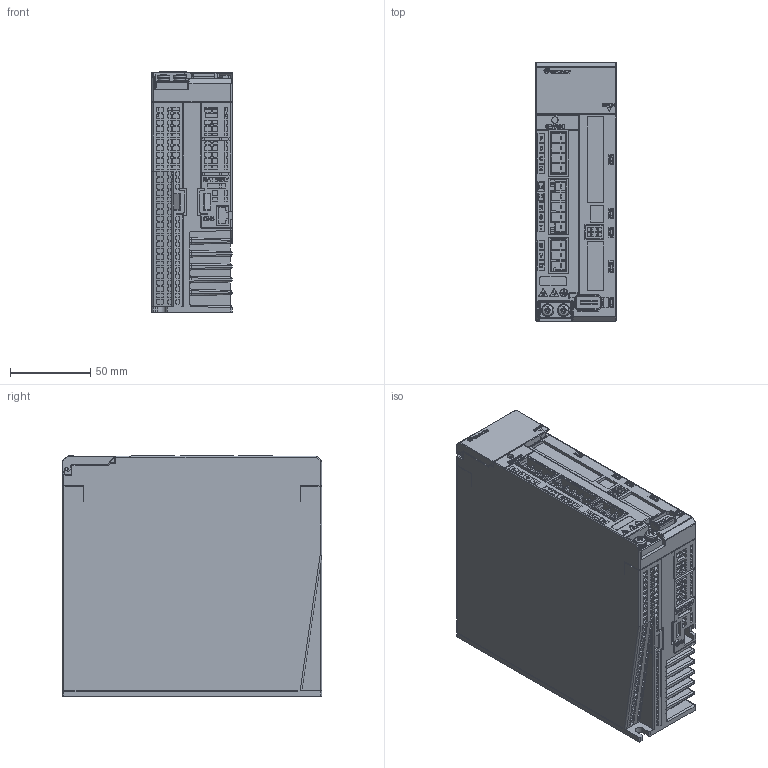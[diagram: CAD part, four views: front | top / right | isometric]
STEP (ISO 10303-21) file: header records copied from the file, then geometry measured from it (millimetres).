
FILE_DESCRIPTION((''),'2;1');
FILE_NAME('D:\999999.黃世程_移交過資料_20171003\0._專案\4.伺服驅動器\20210415_給客人3D\SDP-A框\SDP-A框簡化.stp','2021-04-15T15:19:14',('11254'),(''),'Autodesk Inventor 2008','Autodesk Inventor 2008','');
FILE_SCHEMA(('AUTOMOTIVE_DESIGN { 1 0 10303 214 1 1 1 1 }'));
Length unit declared in the file: millimetre
Products named in the file (1): SDP-A框簡化
Bounding box: 50 x 162.01 x 150.3 mm (x, y, z)
Volume: 1047921.7 mm3; surface area: 150317 mm2
Topology: 1 solids, 2 shells, 7322 faces, 20794 edges, 13759 vertices
Faces by surface type: plane 5938, cylinder 1070, bspline 173, sphere 65, cone 48, torus 28
Full cylindrical faces by diameter (mm): 0.415 x5, 0.8 x10, 1 x2, 1.267 x4, 2 x1, 2.2 x1, 3 x5, 3.4 x4, 3.5 x4, 3.621 x2, 4 x4, 4.3 x2, 4.33 x1, 4.5 x4, 5 x1, 5.5 x1, 8 x2
Entity records: 238887 total; most frequent: CARTESIAN_POINT 46752, ORIENTED_EDGE 41368, DIRECTION 37069, EDGE_CURVE 20684, VECTOR 17871, LINE 17871, VERTEX_POINT 13739, AXIS2_PLACEMENT_3D 9599
